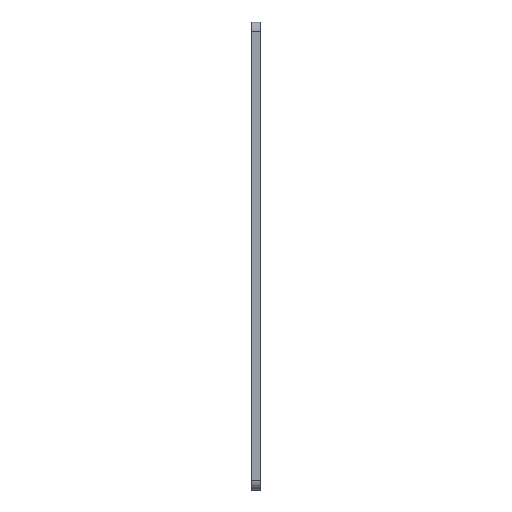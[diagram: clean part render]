
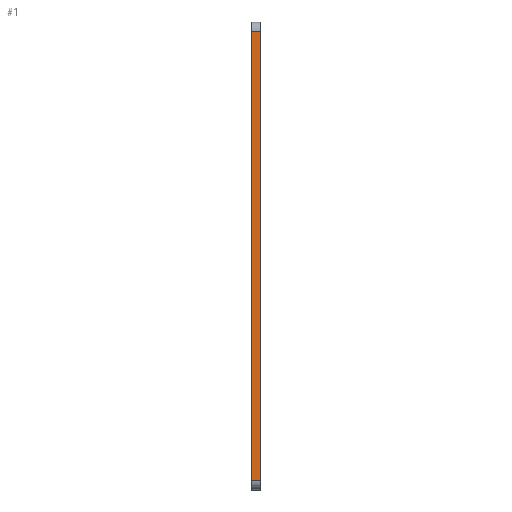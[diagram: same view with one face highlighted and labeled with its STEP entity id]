
A CAD part, left-side view. The second image highlights one B-rep face of the part: STEP entity #1.
In plain terms, the highlighted planar face has unit normal (-1, 0, 0).
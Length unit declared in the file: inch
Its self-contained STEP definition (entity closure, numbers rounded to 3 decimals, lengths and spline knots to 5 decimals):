
#1 = ADVANCED_FACE ( 'NONE', ( #943 ), #1326, .T. ) ;
#45 = CARTESIAN_POINT ( 'NONE',  ( 0., -0.25, 0. ) ) ;
#83 = VERTEX_POINT ( 'NONE', #480 ) ;
#132 = ORIENTED_EDGE ( 'NONE', *, *, #752, .F. ) ;
#155 = LINE ( 'NONE', #192, #1116 ) ;
#156 = ORIENTED_EDGE ( 'NONE', *, *, #445, .T. ) ;
#192 = CARTESIAN_POINT ( 'NONE',  ( 0., 0., 0. ) ) ;
#239 = CARTESIAN_POINT ( 'NONE',  ( 0., -0.25, 0. ) ) ;
#250 = LINE ( 'NONE', #239, #263 ) ;
#263 = VECTOR ( 'NONE', #665, 39.37008 ) ;
#287 = CARTESIAN_POINT ( 'NONE',  ( 0., -0.25, -12.25 ) ) ;
#293 = DIRECTION ( 'NONE',  ( 0., 1., 0. ) ) ;
#369 = VERTEX_POINT ( 'NONE', #731 ) ;
#403 = LINE ( 'NONE', #1224, #1048 ) ;
#445 = EDGE_CURVE ( 'NONE', #1323, #369, #250, .T. ) ;
#480 = CARTESIAN_POINT ( 'NONE',  ( 0., 0., -0.25 ) ) ;
#594 = EDGE_CURVE ( 'NONE', #1197, #1323, #1307, .T. ) ;
#596 = AXIS2_PLACEMENT_3D ( 'NONE', #45, #997, #1096 ) ;
#646 = ORIENTED_EDGE ( 'NONE', *, *, #594, .T. ) ;
#664 = ORIENTED_EDGE ( 'NONE', *, *, #1237, .T. ) ;
#665 = DIRECTION ( 'NONE',  ( 0., 0., 1. ) ) ;
#669 = EDGE_LOOP ( 'NONE', ( #132, #646, #156, #664 ) ) ;
#731 = CARTESIAN_POINT ( 'NONE',  ( 0., -0.25, -0.25 ) ) ;
#752 = EDGE_CURVE ( 'NONE', #1197, #83, #155, .T. ) ;
#773 = CARTESIAN_POINT ( 'NONE',  ( 0., -0.25, -12.25 ) ) ;
#816 = VECTOR ( 'NONE', #878, 39.37008 ) ;
#878 = DIRECTION ( 'NONE',  ( 0., -1., 0. ) ) ;
#943 = FACE_OUTER_BOUND ( 'NONE', #669, .T. ) ;
#997 = DIRECTION ( 'NONE',  ( -1., 0., 0. ) ) ;
#1015 = DIRECTION ( 'NONE',  ( 0., 0., 1. ) ) ;
#1048 = VECTOR ( 'NONE', #293, 39.37008 ) ;
#1086 = CARTESIAN_POINT ( 'NONE',  ( 0., 0., -12.25 ) ) ;
#1096 = DIRECTION ( 'NONE',  ( 0., 0., 1. ) ) ;
#1116 = VECTOR ( 'NONE', #1015, 39.37008 ) ;
#1197 = VERTEX_POINT ( 'NONE', #1086 ) ;
#1224 = CARTESIAN_POINT ( 'NONE',  ( 0., -0.25, -0.25 ) ) ;
#1237 = EDGE_CURVE ( 'NONE', #369, #83, #403, .T. ) ;
#1307 = LINE ( 'NONE', #773, #816 ) ;
#1323 = VERTEX_POINT ( 'NONE', #287 ) ;
#1326 = PLANE ( 'NONE',  #596 ) ;
